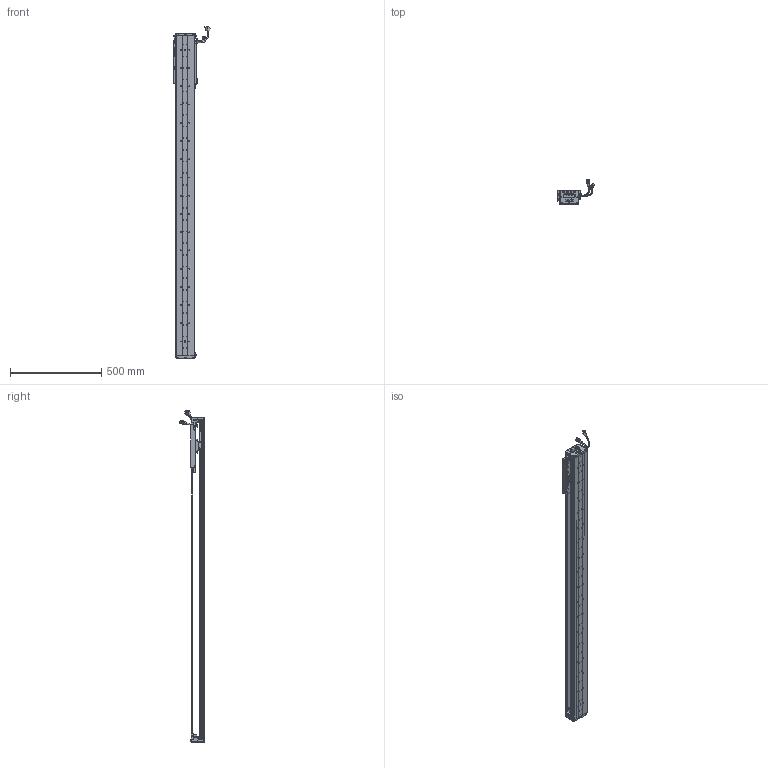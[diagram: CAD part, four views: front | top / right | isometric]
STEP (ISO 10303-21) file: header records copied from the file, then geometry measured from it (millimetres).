
FILE_DESCRIPTION (( 'STEP AP203' ), '1' );
FILE_NAME ('Z3-RY100D-1-L500-B-K.SLDASM_1450.step', '2021-05-17T02:50:53', ( '盈信电脑' ), ( '东莞市道滘镇水果街19号' ), 'SwSTEP 2.0', 'SolidWorks 2016', '' );
FILE_SCHEMA (( 'CONFIG_CONTROL_DESIGN' ));
Length unit declared in the file: millimetre
Products named in the file (36): Z-100詩湍傷裔啣; Z3-RY100D-1-L500-B-K.SLDASM_1450; Z3-RY100-L500詩湍90mm遵_1450; SCREW-M1.7-1; 榋妏寠巭燃_暯_M2_2; Z3-RY100D-500-倰第菁釱_1450; 140蚥薯蝶輸; SHIELDPLATE; HARNESS-Part-1; SCALE; COVER-Part-1; 140雄赽晤鎢ん堤盄; Z-RY100D詩湍狟揤裔; PSLH080_PSLF2; 覜茼ん672; SCREW-M1.6; SCALE-Part-2; Z-RY100D詩湍奻揤裔; SCREW-M1.6-3; COVER; SCREW-M1.7; Z3-RY100铝滑块（21款）; LABEL-Part-1; SEAL; SCALE-Part-1; HOLDER0; 100-Z-臏賑輸盄裔(21遴); HARNESS; SCREW-M1.6-2; SCREW-M1.6-1; PBU_SHEET; LABEL; Z-RY100D覜茼んえ; 080黍杅芛假蚾釱21遴; SEAL-Part-1; HARNESS-Part-2
Assembly tree (43 placements, depth 4):
  Z3-RY100D-1-L500-B-K.SLDASM_1450
    Z3-RY100D-500-倰第菁釱_1450
    Z3-RY100铝滑块（21款）
    PSLH080_PSLF2
      SCALE
        SCALE-Part-1
        SCALE-Part-2
      HARNESS
        HARNESS-Part-1
        HARNESS-Part-2
      LABEL
        LABEL-Part-1
      COVER
        COVER-Part-1
      SEAL
        SEAL-Part-1
      榋妏寠巭燃_暯_M2_2
      SHIELDPLATE
      SCREW-M1.7
      SCREW-M1.7-1
      PBU_SHEET
      SCREW-M1.6
      SCREW-M1.6-1
      SCREW-M1.6-2
      SCREW-M1.6-3
      HOLDER0
    080黍杅芛假蚾釱21遴
    Z-100詩湍傷裔啣  x2
    140蚥薯蝶輸  x2
    覜茼ん672  x3
    Z-RY100D覜茼んえ  x3
    100-Z-臏賑輸盄裔(21遴)
    140雄赽晤鎢ん堤盄
    Z3-RY100-L500詩湍90mm遵_1450
    Z-RY100D詩湍狟揤裔  x2
    Z-RY100D詩湍奻揤裔  x2
Bounding box: 205.83 x 136.11 x 1820.43 mm (x, y, z)
Volume: 3536255.7 mm3; surface area: 1374521.8 mm2
Topology: 38 solids, 38 shells, 2769 faces, 7405 edges, 4704 vertices
Faces by surface type: cylinder 1274, plane 1147, cone 226, torus 69, bspline 53
Entity records: 77559 total; most frequent: CARTESIAN_POINT 16293, DIRECTION 12391, ORIENTED_EDGE 11690, EDGE_CURVE 5845, AXIS2_PLACEMENT_3D 4606, VERTEX_POINT 3772, LINE 3179, VECTOR 3179
